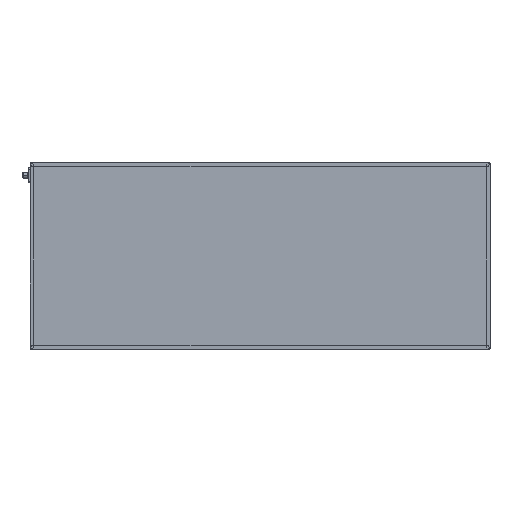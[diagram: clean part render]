
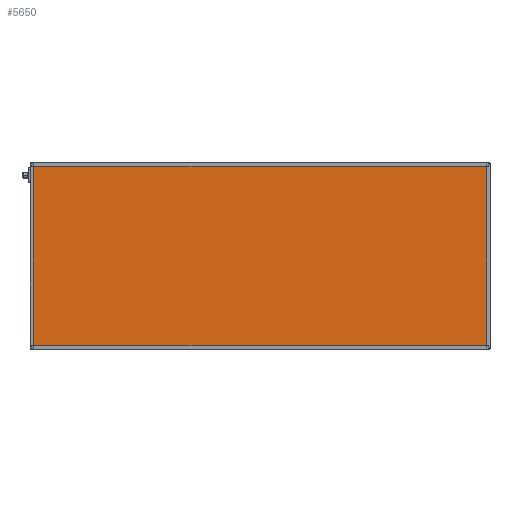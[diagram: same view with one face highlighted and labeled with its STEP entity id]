
A CAD part, top view. The second image highlights one B-rep face of the part: STEP entity #5650.
In plain terms, the highlighted planar face has unit normal (0, 0, 1).
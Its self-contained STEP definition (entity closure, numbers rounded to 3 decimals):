
#682 = ORIENTED_EDGE ( 'NONE', *, *, #12136, .T. ) ;
#781 = DIRECTION ( 'NONE',  ( 0., 0., -1. ) ) ;
#2254 = LINE ( 'NONE', #7233, #8008 ) ;
#2294 = CARTESIAN_POINT ( 'NONE',  ( 996., 4., 41.85 ) ) ;
#2622 = EDGE_CURVE ( 'NONE', #3165, #8168, #4639, .T. ) ;
#2784 = LINE ( 'NONE', #8100, #9726 ) ;
#3165 = VERTEX_POINT ( 'NONE', #11791 ) ;
#4241 = DIRECTION ( 'NONE',  ( 0., -1., 0. ) ) ;
#4639 = LINE ( 'NONE', #15272, #6075 ) ;
#5030 = ORIENTED_EDGE ( 'NONE', *, *, #9454, .T. ) ;
#5650 = ADVANCED_FACE ( 'NONE', ( #11956 ), #15411, .F. ) ;
#6075 = VECTOR ( 'NONE', #8649, 1000. ) ;
#6515 = VERTEX_POINT ( 'NONE', #2294 ) ;
#6799 = CARTESIAN_POINT ( 'NONE',  ( 4., 396., 41.85 ) ) ;
#6843 = AXIS2_PLACEMENT_3D ( 'NONE', #8787, #781, #14104 ) ;
#7233 = CARTESIAN_POINT ( 'NONE',  ( 996., 0., 41.85 ) ) ;
#7288 = EDGE_CURVE ( 'NONE', #6515, #3165, #2254, .T. ) ;
#8008 = VECTOR ( 'NONE', #10096, 1000. ) ;
#8100 = CARTESIAN_POINT ( 'NONE',  ( 0., 4., 41.85 ) ) ;
#8168 = VERTEX_POINT ( 'NONE', #6799 ) ;
#8483 = CARTESIAN_POINT ( 'NONE',  ( 4., 4., 41.85 ) ) ;
#8649 = DIRECTION ( 'NONE',  ( -1., 0., 0. ) ) ;
#8787 = CARTESIAN_POINT ( 'NONE',  ( 0., 0., 41.85 ) ) ;
#9148 = EDGE_LOOP ( 'NONE', ( #15403, #12759, #5030, #682 ) ) ;
#9164 = VECTOR ( 'NONE', #4241, 1000. ) ;
#9454 = EDGE_CURVE ( 'NONE', #8168, #12955, #10853, .T. ) ;
#9726 = VECTOR ( 'NONE', #16925, 1000. ) ;
#10096 = DIRECTION ( 'NONE',  ( 0., 1., 0. ) ) ;
#10853 = LINE ( 'NONE', #16173, #9164 ) ;
#11791 = CARTESIAN_POINT ( 'NONE',  ( 996., 396., 41.85 ) ) ;
#11956 = FACE_OUTER_BOUND ( 'NONE', #9148, .T. ) ;
#12136 = EDGE_CURVE ( 'NONE', #12955, #6515, #2784, .T. ) ;
#12759 = ORIENTED_EDGE ( 'NONE', *, *, #2622, .T. ) ;
#12955 = VERTEX_POINT ( 'NONE', #8483 ) ;
#14104 = DIRECTION ( 'NONE',  ( -1., 0., 0. ) ) ;
#15272 = CARTESIAN_POINT ( 'NONE',  ( 0., 396., 41.85 ) ) ;
#15403 = ORIENTED_EDGE ( 'NONE', *, *, #7288, .T. ) ;
#15411 = PLANE ( 'NONE',  #6843 ) ;
#16173 = CARTESIAN_POINT ( 'NONE',  ( 4., 0., 41.85 ) ) ;
#16925 = DIRECTION ( 'NONE',  ( 1., 0., 0. ) ) ;
